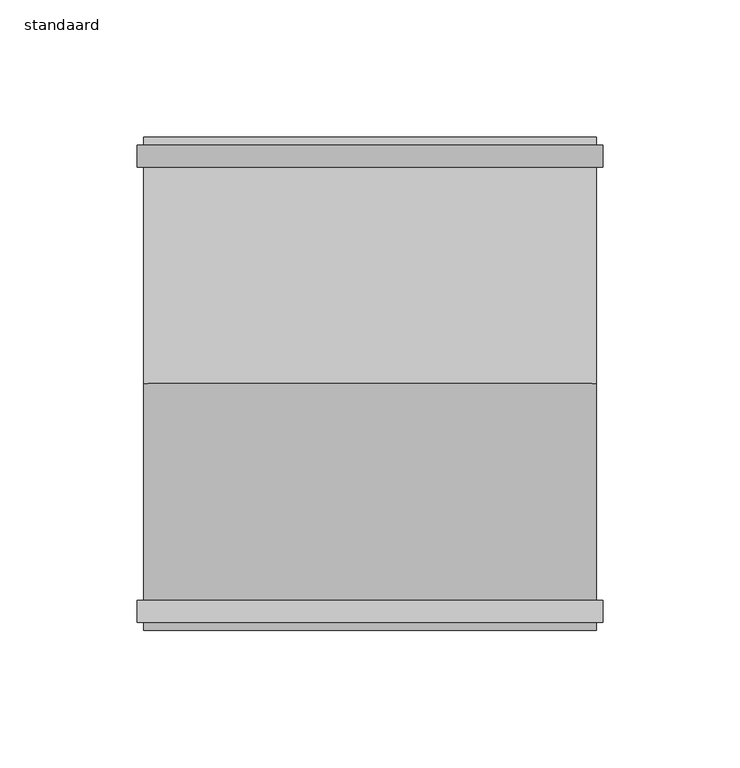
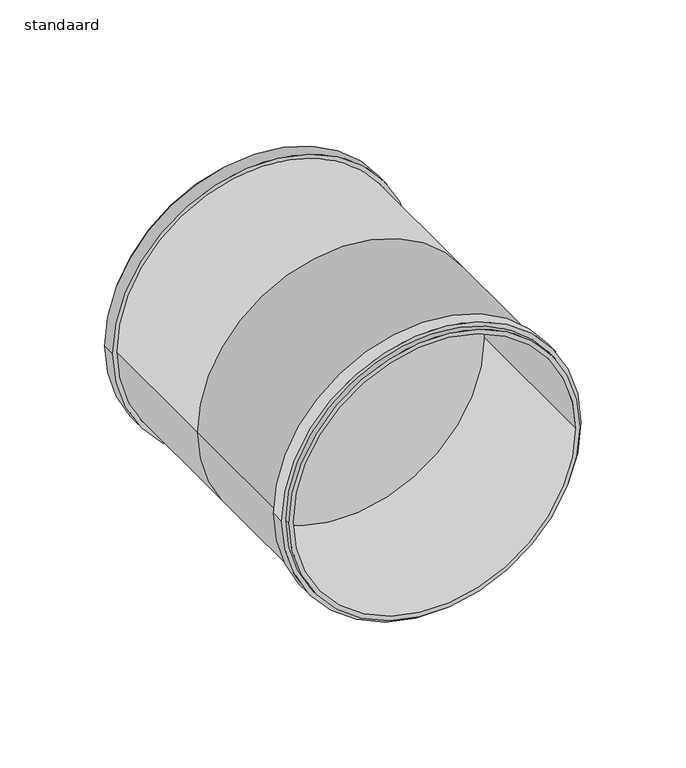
"""IFC4 building model written with IfcOpenShell, lengths in millimetres: pipe fitting geometry, 400_52_Dyka_PP_Dykastil_steekmof : standaard."""

from ifc_helpers import new_model, si_unit, point, frame, origin, origin_2d, place, context, project, spatial, polyline, circle_curve, trimmed, segment, composite_curve, outline, extrude, source, transform, mapped, element, save
from ifc_brep_helpers import plane_surface, cylinder_surface, revolved_surface, advanced_brep


def standaard_93b38509(model_context):
    return source(origin(), model_context, "Body", "SolidModel", [
        advanced_brep(
        [(-82.5, -90.0, 0.0), (82.5, -90.0, 0.0), (-80.0, -90.0, 0.0), (80.0, -90.0, 0.0), (80.0, 0.0, 0.0), (-80.0, 0.0, 0.0), (82.5, 0.0, 0.0), (-82.5, 0.0, 0.0), (82.5, 90.0, 0.0), (-82.5, 90.0, 0.0), (80.0, 90.0, 0.0), (-80.0, 90.0, 0.0)],
        [
            (0, 1, circle_curve(frame((0.0, -90.0, 0.0), z_axis=(0.0, -1.0, 0.0), x_axis=(1.0, 0.0, 0.0)), 82.5)),
            (1, 0, circle_curve(frame((0.0, -90.0, 0.0), z_axis=(0.0, -1.0, 0.0), x_axis=(1.0, 0.0, 0.0)), 82.5)),
            (2, 3, circle_curve(frame((0.0, -90.0, 0.0), z_axis=(0.0, 1.0, 0.0), x_axis=(1.0, 0.0, 0.0)), 80.0)),
            (3, 2, circle_curve(frame((0.0, -90.0, 0.0), z_axis=(0.0, 1.0, 0.0), x_axis=(1.0, 0.0, 0.0)), 80.0)),
            (3, 4),
            (4, 5, circle_curve(frame((0.0, 0.0, 0.0), z_axis=(0.0, 1.0, 0.0), x_axis=(1.0, 0.0, 0.0)), 80.0)),
            (5, 2),
            (5, 4, circle_curve(frame((0.0, 0.0, 0.0), z_axis=(0.0, 1.0, 0.0), x_axis=(1.0, 0.0, 0.0)), 80.0)),
            (1, 6),
            (6, 7, circle_curve(frame((0.0, 0.0, 0.0), z_axis=(0.0, -1.0, 0.0), x_axis=(1.0, 0.0, 0.0)), 82.5)),
            (7, 0),
            (7, 6, circle_curve(frame((0.0, 0.0, 0.0), z_axis=(0.0, -1.0, 0.0), x_axis=(1.0, 0.0, 0.0)), 82.5)),
            (8, 9, circle_curve(frame((0.0, 90.0, 0.0), z_axis=(0.0, 1.0, 0.0), x_axis=(-1.0, 0.0, 0.0)), 82.5)),
            (9, 8, circle_curve(frame((0.0, 90.0, 0.0), z_axis=(0.0, 1.0, 0.0), x_axis=(-1.0, 0.0, 0.0)), 82.5)),
            (10, 11, circle_curve(frame((0.0, 90.0, 0.0), z_axis=(0.0, -1.0, 0.0), x_axis=(-1.0, 0.0, 0.0)), 80.0)),
            (11, 10, circle_curve(frame((0.0, 90.0, 0.0), z_axis=(0.0, -1.0, 0.0), x_axis=(-1.0, 0.0, 0.0)), 80.0)),
            (11, 5),
            (4, 10),
            (9, 7),
            (6, 8),
        ],
        [
            plane_surface(frame((0.0, -90.0, 0.0), z_axis=(0.0, -1.0, 0.0), x_axis=(0.0, 0.0, 1.0))),
            revolved_surface(polyline([(80.0, -90.0, 0.0), (80.0, 0.0, 0.0)]), (0.0, 0.0, 0.0), (0.0, -1.0, 0.0)),
            cylinder_surface(frame((0.0, 0.0, 0.0), z_axis=(0.0, 1.0, 0.0), x_axis=(1.0, 0.0, 0.0)), 82.5),
            plane_surface(frame((0.0, 90.0, 0.0), z_axis=(0.0, 1.0, 0.0), x_axis=(0.0, 0.0, 1.0))),
            revolved_surface(polyline([(-80.0, 90.0, 0.0), (-80.0, 0.0, 0.0)]), (0.0, 0.0, 0.0), (0.0, 1.0, 0.0)),
            cylinder_surface(frame((0.0, 0.0, 0.0), z_axis=(0.0, -1.0, 0.0), x_axis=(-1.0, 0.0, 0.0)), 82.5),
        ],
        [
            (0, [[1, 2], [3, 4]]),
            (1, [[-4, 5, 6, 7]]),
            (1, [[-3, -7, 8, -5]]),
            (2, [[-2, 9, 10, 11]]),
            (2, [[-1, -11, 12, -9]]),
            (3, [[13, 14], [15, 16]]),
            (4, [[-16, 17, -6, 18]]),
            (4, [[-15, -18, -8, -17]]),
            (5, [[-14, 19, -10, 20]]),
            (5, [[-13, -20, -12, -19]]),
        ],
    ),
        extrude(outline(composite_curve([segment(trimmed(circle_curve(origin_2d(), 85.0), [point((0.0, 85.0))], [point((0.0, -85.0))], False, "CARTESIAN"), True, "CONTINUOUS"), segment(trimmed(circle_curve(origin_2d(), 85.0), [point((0.0, -85.0))], [point((0.0, 85.0))], False, "CARTESIAN"), True, "CONTINUOUS")], self_intersect=False), holes=[composite_curve([segment(trimmed(circle_curve(origin_2d(), 82.5), [point((0.0, 82.5))], [point((0.0, -82.5))], True, "CARTESIAN"), True, "CONTINUOUS"), segment(trimmed(circle_curve(origin_2d(), 82.5), [point((0.0, -82.5))], [point((0.0, 82.5))], True, "CARTESIAN"), True, "CONTINUOUS")], self_intersect=False)]), frame((0.0, -87.0, 0.0), z_axis=(0.0, 1.0, 0.0), x_axis=(0.0, 0.0, 1.0)), (0.0, 0.0, 1.0), 8.0),
        extrude(outline(composite_curve([segment(trimmed(circle_curve(origin_2d(), 85.0), [point((0.0, -85.0))], [point((0.0, 85.0))], False, "CARTESIAN"), True, "CONTINUOUS"), segment(trimmed(circle_curve(origin_2d(), 85.0), [point((0.0, 85.0))], [point((0.0, -85.0))], False, "CARTESIAN"), True, "CONTINUOUS")], self_intersect=False), holes=[composite_curve([segment(trimmed(circle_curve(origin_2d(), 82.5), [point((0.0, -82.5))], [point((0.0, 82.5))], True, "CARTESIAN"), True, "CONTINUOUS"), segment(trimmed(circle_curve(origin_2d(), 82.5), [point((0.0, 82.5))], [point((0.0, -82.5))], True, "CARTESIAN"), True, "CONTINUOUS")], self_intersect=False)]), frame((0.0, 79.0, 0.0), z_axis=(0.0, 1.0, 0.0), x_axis=(0.0, 0.0, 1.0)), (0.0, 0.0, 1.0), 8.0),
        extrude(outline(composite_curve([segment(trimmed(circle_curve(origin_2d(), 80.0), [point((80.0, 0.0))], [point((0.0, -80.0))], False, "CARTESIAN"), True, "CONTINUOUS"), segment(trimmed(circle_curve(origin_2d(), 80.0), [point((0.0, -80.0))], [point((-80.0, 0.0))], False, "CARTESIAN"), True, "CONTINUOUS"), segment(trimmed(circle_curve(origin_2d(), 80.0), [point((-80.0, 0.0))], [point((0.0, 80.0))], False, "CARTESIAN"), True, "CONTINUOUS"), segment(trimmed(circle_curve(origin_2d(), 80.0), [point((0.0, 80.0))], [point((80.0, 0.0))], False, "CARTESIAN"), True, "CONTINUOUS")], self_intersect=False)), frame((0.0, -1.0, 0.0), z_axis=(0.0, 1.0, 0.0), x_axis=(0.0, 0.0, 1.0)), (0.0, 0.0, 1.0), 2.0),
    ])


if __name__ == "__main__":
    model = new_model("IFC4")
    model_context = context("Model", 3, world=origin())
    ifc_project = project(units=[si_unit("LENGTHUNIT", "METRE", prefix="MILLI")], contexts=[model_context])
    site = spatial("IfcSite", under=ifc_project)
    building = spatial("IfcBuilding", under=site)
    placement = place(None, origin())
    standaard_shape = standaard_93b38509(model_context)
    element("IfcPipeFitting", 1, ObjectType="400_52_Dyka_PP_Dykastil_steekmof : standaard", at=placement, inside=building, context=model_context, shape_type="MappedRepresentation", body=[
        mapped(standaard_shape, transform((0.0, 0.0, 0.0), x_axis=(1.0, 0.0, 0.0), y_axis=(0.0, 1.0, 0.0), z_axis=(0.0, 0.0, 1.0))),
    ])
    save(model, "model.ifc")
